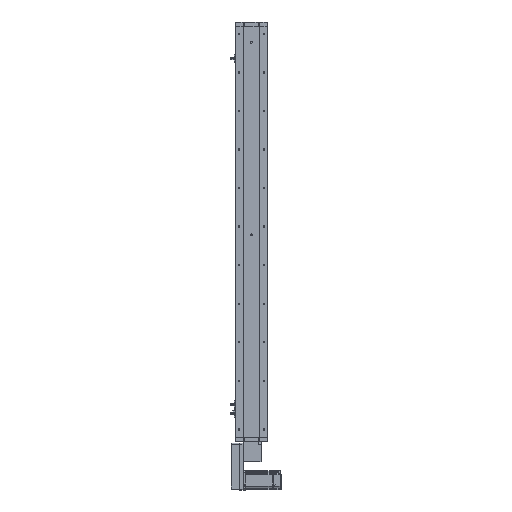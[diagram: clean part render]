
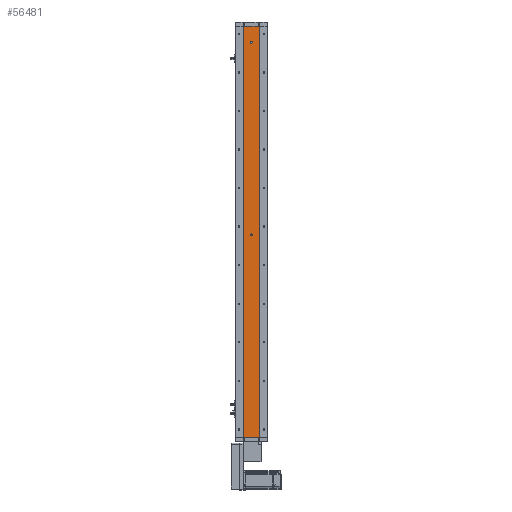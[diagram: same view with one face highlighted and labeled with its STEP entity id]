
A CAD part, left-side view. The second image highlights one B-rep face of the part: STEP entity #56481.
In plain terms, the highlighted planar face has unit normal (-1, 0, 0).
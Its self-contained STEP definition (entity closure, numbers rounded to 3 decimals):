
#632 = DIRECTION ( 'NONE',  ( -1., 0., 0. ) ) ;
#909 = CARTESIAN_POINT ( 'NONE',  ( -18.926, 0., 1230. ) ) ;
#1471 = VECTOR ( 'NONE', #46291, 1000. ) ;
#2488 = LINE ( 'NONE', #49218, #44280 ) ;
#3249 = AXIS2_PLACEMENT_3D ( 'NONE', #21940, #60278, #27400 ) ;
#3365 = CARTESIAN_POINT ( 'NONE',  ( -18.926, 0., 1230. ) ) ;
#3784 = CIRCLE ( 'NONE', #69964, 3. ) ;
#4360 = AXIS2_PLACEMENT_3D ( 'NONE', #3365, #41483, #8796 ) ;
#5554 = DIRECTION ( 'NONE',  ( 0., 0., -1. ) ) ;
#6369 = DIRECTION ( 'NONE',  ( 0., 0., 1. ) ) ;
#8796 = DIRECTION ( 'NONE',  ( 0., 0., 1. ) ) ;
#9303 = CARTESIAN_POINT ( 'NONE',  ( -18.926, 24.785, 0. ) ) ;
#9384 = ORIENTED_EDGE ( 'NONE', *, *, #15054, .F. ) ;
#10537 = DIRECTION ( 'NONE',  ( 1., 0., 0. ) ) ;
#11508 = VERTEX_POINT ( 'NONE', #12849 ) ;
#12068 = EDGE_CURVE ( 'NONE', #27545, #39863, #59640, .T. ) ;
#12849 = CARTESIAN_POINT ( 'NONE',  ( -18.926, 0., 627. ) ) ;
#13508 = CARTESIAN_POINT ( 'NONE',  ( -18.926, 24.785, 1280. ) ) ;
#15054 = EDGE_CURVE ( 'NONE', #47355, #60354, #65048, .T. ) ;
#16301 = VERTEX_POINT ( 'NONE', #22647 ) ;
#19201 = VERTEX_POINT ( 'NONE', #51401 ) ;
#21442 = VECTOR ( 'NONE', #43207, 1000. ) ;
#21940 = CARTESIAN_POINT ( 'NONE',  ( -18.926, 0., 630. ) ) ;
#21953 = ORIENTED_EDGE ( 'NONE', *, *, #50308, .F. ) ;
#22356 = CARTESIAN_POINT ( 'NONE',  ( -18.926, 24.785, 0. ) ) ;
#22484 = FACE_BOUND ( 'NONE', #62499, .T. ) ;
#22647 = CARTESIAN_POINT ( 'NONE',  ( -18.926, 0., 633. ) ) ;
#25222 = ORIENTED_EDGE ( 'NONE', *, *, #26165, .F. ) ;
#25912 = ORIENTED_EDGE ( 'NONE', *, *, #39032, .T. ) ;
#26165 = EDGE_CURVE ( 'NONE', #60354, #47355, #31166, .T. ) ;
#27007 = CARTESIAN_POINT ( 'NONE',  ( -18.926, 24.785, 1280. ) ) ;
#27400 = DIRECTION ( 'NONE',  ( 0., 0., 1. ) ) ;
#27545 = VERTEX_POINT ( 'NONE', #27007 ) ;
#28069 = CARTESIAN_POINT ( 'NONE',  ( -18.926, 0., 1233. ) ) ;
#29614 = ORIENTED_EDGE ( 'NONE', *, *, #64447, .F. ) ;
#31166 = CIRCLE ( 'NONE', #59691, 3. ) ;
#33272 = CARTESIAN_POINT ( 'NONE',  ( -18.926, 0., 630. ) ) ;
#34381 = ORIENTED_EDGE ( 'NONE', *, *, #37645, .F. ) ;
#36080 = EDGE_LOOP ( 'NONE', ( #47399, #34381, #69685, #25912 ) ) ;
#37011 = FACE_BOUND ( 'NONE', #66839, .T. ) ;
#37427 = CARTESIAN_POINT ( 'NONE',  ( -18.926, 0., 1227. ) ) ;
#37645 = EDGE_CURVE ( 'NONE', #39863, #19201, #2488, .T. ) ;
#37657 = LINE ( 'NONE', #59830, #21442 ) ;
#38793 = DIRECTION ( 'NONE',  ( 0., 0., 1. ) ) ;
#39032 = EDGE_CURVE ( 'NONE', #27545, #62939, #37657, .T. ) ;
#39087 = DIRECTION ( 'NONE',  ( -1., 0., 0. ) ) ;
#39863 = VERTEX_POINT ( 'NONE', #56289 ) ;
#40111 = LINE ( 'NONE', #22356, #54666 ) ;
#41483 = DIRECTION ( 'NONE',  ( -1., 0., 0. ) ) ;
#43185 = CARTESIAN_POINT ( 'NONE',  ( -18.926, 24.785, 1280. ) ) ;
#43207 = DIRECTION ( 'NONE',  ( 0., 0., -1. ) ) ;
#44280 = VECTOR ( 'NONE', #5554, 1000. ) ;
#46291 = DIRECTION ( 'NONE',  ( 0., -1., 0. ) ) ;
#47355 = VERTEX_POINT ( 'NONE', #28069 ) ;
#47399 = ORIENTED_EDGE ( 'NONE', *, *, #60450, .T. ) ;
#48749 = DIRECTION ( 'NONE',  ( 0., 0., -1. ) ) ;
#49218 = CARTESIAN_POINT ( 'NONE',  ( -18.926, -24.785, 1280. ) ) ;
#50308 = EDGE_CURVE ( 'NONE', #11508, #16301, #50774, .T. ) ;
#50774 = CIRCLE ( 'NONE', #3249, 3. ) ;
#51401 = CARTESIAN_POINT ( 'NONE',  ( -18.926, -24.785, 0. ) ) ;
#54023 = PLANE ( 'NONE',  #68806 ) ;
#54666 = VECTOR ( 'NONE', #55112, 1000. ) ;
#55112 = DIRECTION ( 'NONE',  ( 0., -1., 0. ) ) ;
#56289 = CARTESIAN_POINT ( 'NONE',  ( -18.926, -24.785, 1280. ) ) ;
#56481 = ADVANCED_FACE ( 'NONE', ( #37011, #22484, #66191 ), #54023, .F. ) ;
#59640 = LINE ( 'NONE', #13508, #1471 ) ;
#59691 = AXIS2_PLACEMENT_3D ( 'NONE', #909, #39087, #6369 ) ;
#59830 = CARTESIAN_POINT ( 'NONE',  ( -18.926, 24.785, 1280. ) ) ;
#60278 = DIRECTION ( 'NONE',  ( -1., 0., 0. ) ) ;
#60354 = VERTEX_POINT ( 'NONE', #37427 ) ;
#60450 = EDGE_CURVE ( 'NONE', #62939, #19201, #40111, .T. ) ;
#62499 = EDGE_LOOP ( 'NONE', ( #9384, #25222 ) ) ;
#62939 = VERTEX_POINT ( 'NONE', #9303 ) ;
#64447 = EDGE_CURVE ( 'NONE', #16301, #11508, #3784, .T. ) ;
#65048 = CIRCLE ( 'NONE', #4360, 3. ) ;
#66191 = FACE_OUTER_BOUND ( 'NONE', #36080, .T. ) ;
#66839 = EDGE_LOOP ( 'NONE', ( #29614, #21953 ) ) ;
#68806 = AXIS2_PLACEMENT_3D ( 'NONE', #43185, #10537, #48749 ) ;
#69685 = ORIENTED_EDGE ( 'NONE', *, *, #12068, .F. ) ;
#69964 = AXIS2_PLACEMENT_3D ( 'NONE', #33272, #632, #38793 ) ;
